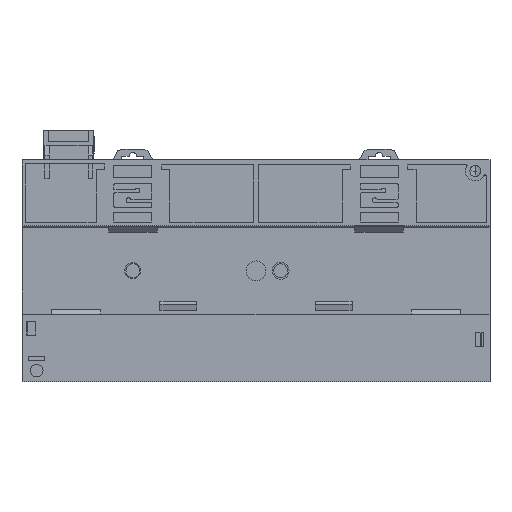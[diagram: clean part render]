
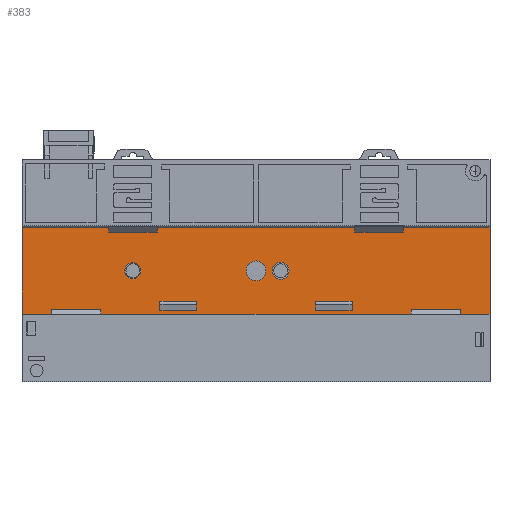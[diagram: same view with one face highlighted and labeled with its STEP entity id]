
A CAD part, front view. The second image highlights one B-rep face of the part: STEP entity #383.
In plain terms, the highlighted planar face has unit normal (0, -1, 0).
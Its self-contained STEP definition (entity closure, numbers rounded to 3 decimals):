
#383=ADVANCED_FACE('Corps principal',(#7019,#7020,#7021,#7022,#7023,#7024),#7025,.T.);
#7019=FACE_OUTER_BOUND('',#20190,.T.);
#7020=FACE_BOUND('',#20191,.T.);
#7021=FACE_BOUND('',#20192,.T.);
#7022=FACE_BOUND('',#20193,.T.);
#7023=FACE_BOUND('',#20194,.T.);
#7024=FACE_BOUND('',#20195,.T.);
#7025=PLANE('',#20196);
#20190=EDGE_LOOP('',(#36751,#36752,#36753,#36754));
#20191=EDGE_LOOP('',(#36755,#36756,#36757,#36758));
#20192=EDGE_LOOP('',(#36759,#36760,#36761,#36762));
#20193=EDGE_LOOP('',(#36763,#36764));
#20194=EDGE_LOOP('',(#36765,#36766));
#20195=EDGE_LOOP('',(#36767,#36768));
#20196=AXIS2_PLACEMENT_3D('',#36769,#36770,#36771);
#36751=ORIENTED_EDGE('',*,*,#93657,.F.);
#36752=ORIENTED_EDGE('',*,*,#93259,.F.);
#36753=ORIENTED_EDGE('',*,*,#93236,.T.);
#36754=ORIENTED_EDGE('',*,*,#93364,.F.);
#36755=ORIENTED_EDGE('',*,*,#93658,.T.);
#36756=ORIENTED_EDGE('',*,*,#93659,.T.);
#36757=ORIENTED_EDGE('',*,*,#93660,.F.);
#36758=ORIENTED_EDGE('',*,*,#93661,.F.);
#36759=ORIENTED_EDGE('',*,*,#93662,.T.);
#36760=ORIENTED_EDGE('',*,*,#93663,.T.);
#36761=ORIENTED_EDGE('',*,*,#93664,.F.);
#36762=ORIENTED_EDGE('',*,*,#93665,.F.);
#36763=ORIENTED_EDGE('',*,*,#93666,.F.);
#36764=ORIENTED_EDGE('',*,*,#93667,.F.);
#36765=ORIENTED_EDGE('',*,*,#93668,.F.);
#36766=ORIENTED_EDGE('',*,*,#93669,.F.);
#36767=ORIENTED_EDGE('',*,*,#93670,.F.);
#36768=ORIENTED_EDGE('',*,*,#93671,.F.);
#36769=CARTESIAN_POINT('',(-95.0,27.2,17.65));
#36770=DIRECTION('',(0.0,-1.0,0.0));
#36771=DIRECTION('',(0.0,0.0,-1.0));
#93236=EDGE_CURVE('',#111348,#111346,#111349,.T.);
#93259=EDGE_CURVE('',#111348,#111393,#111394,.F.);
#93364=EDGE_CURVE('',#111601,#111346,#111603,.T.);
#93657=EDGE_CURVE('',#111393,#111601,#112152,.T.);
#93658=EDGE_CURVE('',#112153,#112154,#112155,.F.);
#93659=EDGE_CURVE('',#112154,#112156,#112157,.T.);
#93660=EDGE_CURVE('',#112158,#112156,#112159,.F.);
#93661=EDGE_CURVE('',#112153,#112158,#112160,.T.);
#93662=EDGE_CURVE('',#112161,#112162,#112163,.F.);
#93663=EDGE_CURVE('',#112162,#112164,#112165,.T.);
#93664=EDGE_CURVE('',#112166,#112164,#112167,.F.);
#93665=EDGE_CURVE('',#112161,#112166,#112168,.T.);
#93666=EDGE_CURVE('',#112169,#112170,#112171,.T.);
#93667=EDGE_CURVE('',#112170,#112169,#112172,.T.);
#93668=EDGE_CURVE('',#112173,#112174,#112175,.T.);
#93669=EDGE_CURVE('',#112174,#112173,#112176,.T.);
#93670=EDGE_CURVE('',#112177,#112178,#112179,.T.);
#93671=EDGE_CURVE('',#112178,#112177,#112180,.T.);
#111346=VERTEX_POINT('',#141627);
#111348=VERTEX_POINT('',#141630);
#111349=LINE('',#141631,#141632);
#111393=VERTEX_POINT('',#141708);
#111394=LINE('',#141709,#141710);
#111601=VERTEX_POINT('',#142032);
#111603=LINE('',#142035,#142036);
#112152=LINE('',#143831,#143832);
#112153=VERTEX_POINT('',#143833);
#112154=VERTEX_POINT('',#143834);
#112155=LINE('',#143835,#143836);
#112156=VERTEX_POINT('',#143837);
#112157=LINE('',#143838,#143839);
#112158=VERTEX_POINT('',#143840);
#112159=LINE('',#143841,#143842);
#112160=LINE('',#143843,#143844);
#112161=VERTEX_POINT('',#143845);
#112162=VERTEX_POINT('',#143846);
#112163=LINE('',#143847,#143848);
#112164=VERTEX_POINT('',#143849);
#112165=LINE('',#143850,#143851);
#112166=VERTEX_POINT('',#143852);
#112167=LINE('',#143853,#143854);
#112168=LINE('',#143855,#143856);
#112169=VERTEX_POINT('',#143857);
#112170=VERTEX_POINT('',#143858);
#112171=CIRCLE('',#143859,3.407);
#112172=CIRCLE('',#143860,3.407);
#112173=VERTEX_POINT('',#143861);
#112174=VERTEX_POINT('',#143862);
#112175=CIRCLE('',#143863,4.);
#112176=CIRCLE('',#143864,4.);
#112177=VERTEX_POINT('',#143865);
#112178=VERTEX_POINT('',#143866);
#112179=CIRCLE('',#143867,3.25);
#112180=CIRCLE('',#143868,3.25);
#141627=CARTESIAN_POINT('',(95.0,27.2,-17.65));
#141630=CARTESIAN_POINT('',(-95.0,27.2,-17.65));
#141631=CARTESIAN_POINT('',(0.0,27.2,-17.65));
#141632=VECTOR('',#195995,1.0);
#141708=CARTESIAN_POINT('',(-95.0,27.2,17.65));
#141709=CARTESIAN_POINT('',(-95.0,27.2,0.));
#141710=VECTOR('',#196035,1.0);
#142032=CARTESIAN_POINT('',(95.0,27.2,17.65));
#142035=CARTESIAN_POINT('',(95.0,27.2,0.));
#142036=VECTOR('',#196184,1.0);
#143831=CARTESIAN_POINT('',(0.0,27.2,17.65));
#143832=VECTOR('',#196404,1.0);
#143833=CARTESIAN_POINT('',(-39.0,27.2,-16.));
#143834=CARTESIAN_POINT('',(-39.0,27.2,-12.409));
#143835=CARTESIAN_POINT('',(-39.0,27.2,-14.205));
#143836=VECTOR('',#196405,1.0);
#143837=CARTESIAN_POINT('',(-24.0,27.2,-12.409));
#143838=CARTESIAN_POINT('',(-31.5,27.2,-12.409));
#143839=VECTOR('',#196406,1.0);
#143840=CARTESIAN_POINT('',(-24.0,27.2,-16.));
#143841=CARTESIAN_POINT('',(-24.0,27.2,-14.205));
#143842=VECTOR('',#196407,1.0);
#143843=CARTESIAN_POINT('',(-31.5,27.2,-16.));
#143844=VECTOR('',#196408,1.0);
#143845=CARTESIAN_POINT('',(24.0,27.2,-16.));
#143846=CARTESIAN_POINT('',(24.0,27.2,-12.409));
#143847=CARTESIAN_POINT('',(24.0,27.2,-14.205));
#143848=VECTOR('',#196409,1.0);
#143849=CARTESIAN_POINT('',(39.0,27.2,-12.409));
#143850=CARTESIAN_POINT('',(31.5,27.2,-12.409));
#143851=VECTOR('',#196410,1.0);
#143852=CARTESIAN_POINT('',(39.0,27.2,-16.));
#143853=CARTESIAN_POINT('',(39.0,27.2,-14.205));
#143854=VECTOR('',#196411,1.0);
#143855=CARTESIAN_POINT('',(31.5,27.2,-16.));
#143856=VECTOR('',#196412,1.0);
#143857=CARTESIAN_POINT('',(13.407,27.2,0.));
#143858=CARTESIAN_POINT('',(6.593,27.2,0.));
#143859=AXIS2_PLACEMENT_3D('',#196413,#196414,#196415);
#143860=AXIS2_PLACEMENT_3D('',#196416,#196417,#196418);
#143861=CARTESIAN_POINT('',(4.,27.2,0.));
#143862=CARTESIAN_POINT('',(-4.,27.2,0.));
#143863=AXIS2_PLACEMENT_3D('',#196419,#196420,#196421);
#143864=AXIS2_PLACEMENT_3D('',#196422,#196423,#196424);
#143865=CARTESIAN_POINT('',(-46.75,27.2,0.));
#143866=CARTESIAN_POINT('',(-53.25,27.2,0.));
#143867=AXIS2_PLACEMENT_3D('',#196425,#196426,#196427);
#143868=AXIS2_PLACEMENT_3D('',#196428,#196429,#196430);
#195995=DIRECTION('',(1.0,0.0,0.0));
#196035=DIRECTION('',(0.0,0.0,-1.0));
#196184=DIRECTION('',(0.0,0.0,-1.0));
#196404=DIRECTION('',(1.0,0.0,0.0));
#196405=DIRECTION('',(0.0,0.0,-1.0));
#196406=DIRECTION('',(1.0,0.0,0.0));
#196407=DIRECTION('',(0.0,0.0,-1.0));
#196408=DIRECTION('',(1.0,0.0,0.0));
#196409=DIRECTION('',(0.0,0.0,-1.0));
#196410=DIRECTION('',(1.0,0.0,0.0));
#196411=DIRECTION('',(0.0,0.0,-1.0));
#196412=DIRECTION('',(1.0,0.0,0.0));
#196413=CARTESIAN_POINT('',(10.0,27.2,0.));
#196414=DIRECTION('',(0.0,-1.0,0.0));
#196415=DIRECTION('',(1.0,0.0,0.0));
#196416=CARTESIAN_POINT('',(10.0,27.2,0.));
#196417=DIRECTION('',(0.0,-1.0,0.0));
#196418=DIRECTION('',(1.0,0.0,0.0));
#196419=CARTESIAN_POINT('',(0.0,27.2,0.));
#196420=DIRECTION('',(0.0,-1.0,0.0));
#196421=DIRECTION('',(1.0,0.0,0.0));
#196422=CARTESIAN_POINT('',(0.0,27.2,0.));
#196423=DIRECTION('',(0.0,-1.0,0.0));
#196424=DIRECTION('',(1.0,0.0,0.0));
#196425=CARTESIAN_POINT('',(-50.0,27.2,0.));
#196426=DIRECTION('',(0.0,-1.0,0.0));
#196427=DIRECTION('',(1.0,0.0,0.0));
#196428=CARTESIAN_POINT('',(-50.0,27.2,0.));
#196429=DIRECTION('',(0.0,-1.0,0.0));
#196430=DIRECTION('',(1.0,0.0,0.0));
